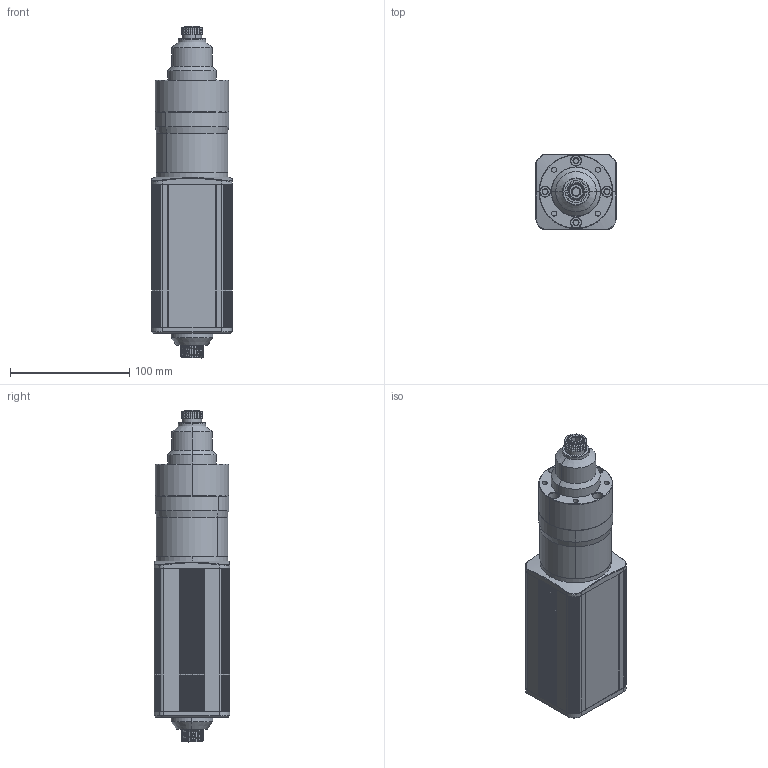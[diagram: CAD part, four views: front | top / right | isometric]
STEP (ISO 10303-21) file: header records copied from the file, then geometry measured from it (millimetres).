
FILE_DESCRIPTION (( 'STEP AP203' ), '1' );
FILE_NAME ('ZEDA-DE-MA6.35-0900 DE系列-低压高速智能电批.STEP', '2026-08-11T09:54:30', ( 'Windows User' ), ( 'P R C' ), 'SwSTEP 2.0', 'SolidWorks 2025', '' );
FILE_SCHEMA (( 'CONFIG_CONTROL_DESIGN' ));
Length unit declared in the file: millimetre
Products named in the file (1): ZEDA-DE-MA6.35-0900 DE系列-低压高速智能电批
Bounding box: 67.4 x 63.4 x 278.85 mm (x, y, z)
Surface area: 80708.8 mm2 (no closed solid volume)
Topology: 0 solids, 24 shells, 509 faces, 1606 edges, 1105 vertices
Faces by surface type: cylinder 300, plane 90, cone 54, bspline 39, torus 26
Entity records: 33201 total; most frequent: CARTESIAN_POINT 19092, DIRECTION 3042, ORIENTED_EDGE 2834, EDGE_CURVE 1606, AXIS2_PLACEMENT_3D 1213, VERTEX_POINT 1105, CIRCLE 742, LINE 616
